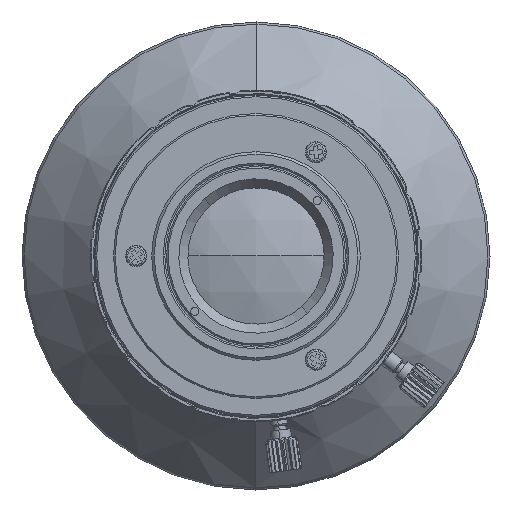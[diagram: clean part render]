
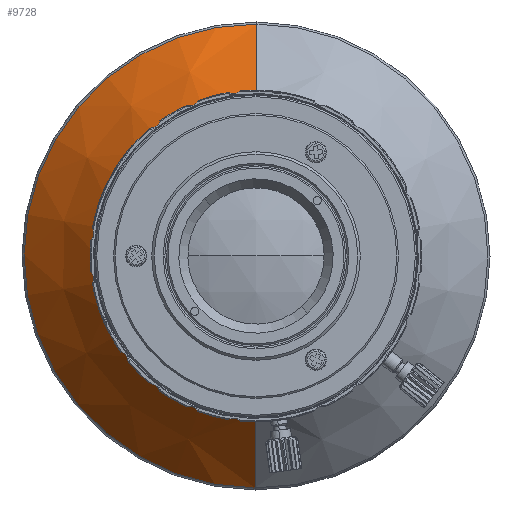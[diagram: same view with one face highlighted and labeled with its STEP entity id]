
A CAD part, front view. The second image highlights one B-rep face of the part: STEP entity #9728.
In plain terms, the highlighted conical face has half-angle 41.836 degrees and reference radius 23.8 mm.
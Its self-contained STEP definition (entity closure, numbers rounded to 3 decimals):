
#7128=CARTESIAN_POINT('',(26.779,60.152,0.));
#7129=DIRECTION('',(0.,1.,0.));
#7130=DIRECTION('',(0.,0.,1.));
#7131=AXIS2_PLACEMENT_3D('',#7128,#7129,#7130);
#7143=DIRECTION('',(0.,-0.745,-0.667));
#7144=VECTOR('',#7143,13.328);
#7145=CARTESIAN_POINT('',(26.779,60.152,28.245));
#7146=LINE('',#7145,#7144);
#7157=CARTESIAN_POINT('',(26.779,50.222,0.));
#7158=DIRECTION('',(0.,-1.,0.));
#7159=DIRECTION('',(0.,0.,-1.));
#7160=AXIS2_PLACEMENT_3D('',#7157,#7158,#7159);
#7177=DIRECTION('',(0.,-0.745,0.667));
#7178=VECTOR('',#7177,13.328);
#7179=CARTESIAN_POINT('',(26.779,60.152,-28.245));
#7180=LINE('',#7179,#7178);
#8421=CARTESIAN_POINT('',(26.779,60.152,-28.245));
#8422=VERTEX_POINT('',#8421);
#8573=CARTESIAN_POINT('',(26.779,50.222,19.355));
#8574=CARTESIAN_POINT('',(26.779,50.222,-19.355));
#8575=VERTEX_POINT('',#8573);
#8576=VERTEX_POINT('',#8574);
#8617=CARTESIAN_POINT('',(26.779,60.152,28.245));
#8618=VERTEX_POINT('',#8617);
#9714=CARTESIAN_POINT('',(26.779,55.187,0.));
#9715=DIRECTION('',(0.,1.,0.));
#9716=DIRECTION('',(0.,0.,1.));
#9717=AXIS2_PLACEMENT_3D('',#9714,#9715,#9716);
#9718=CONICAL_SURFACE('',#9717,23.8,41.836);
#9720=ORIENTED_EDGE('',*,*,#9719,.T.);
#9722=ORIENTED_EDGE('',*,*,#9721,.F.);
#9723=ORIENTED_EDGE('',*,*,#9704,.T.);
#9725=ORIENTED_EDGE('',*,*,#9724,.T.);
#9726=EDGE_LOOP('',(#9720,#9722,#9723,#9725));
#9727=FACE_OUTER_BOUND('',#9726,.F.);
#9728=ADVANCED_FACE('',(#9727),#9718,.T.);
#7132=CIRCLE('',#7131,28.245);
#7161=CIRCLE('',#7160,19.355);
#9704=EDGE_CURVE('',#8618,#8422,#7132,.T.);
#9719=EDGE_CURVE('',#8576,#8575,#7161,.T.);
#9721=EDGE_CURVE('',#8618,#8575,#7146,.T.);
#9724=EDGE_CURVE('',#8422,#8576,#7180,.T.);
